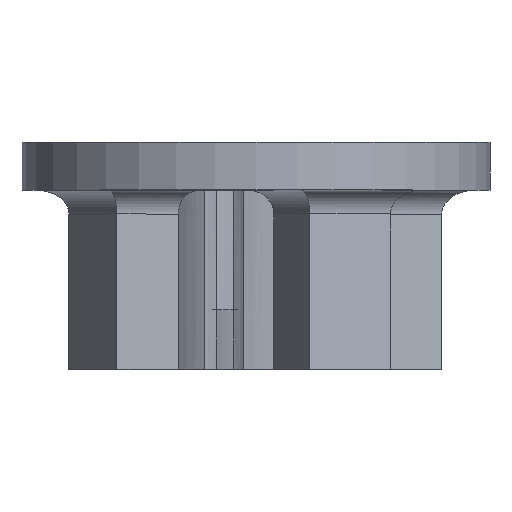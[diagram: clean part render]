
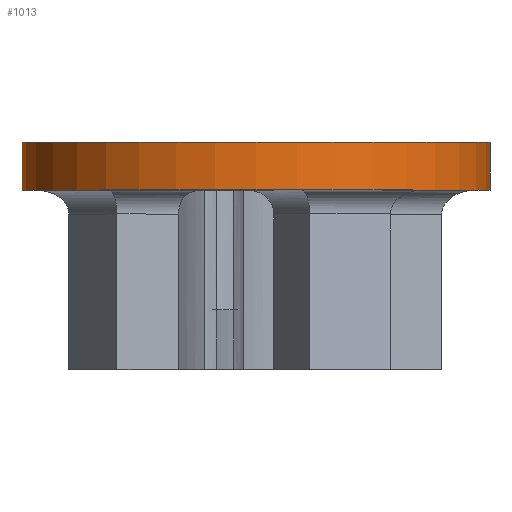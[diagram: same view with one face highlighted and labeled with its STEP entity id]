
A CAD part, top view. The second image highlights one B-rep face of the part: STEP entity #1013.
In plain terms, the highlighted cylindrical face has radius 9.789 mm (diameter 19.577 mm), a full revolution.
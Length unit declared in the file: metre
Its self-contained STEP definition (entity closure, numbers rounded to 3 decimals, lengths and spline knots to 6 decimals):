
#61=CIRCLE('',#1102,0.009789);
#69=CIRCLE('',#1115,0.009789);
#182=ORIENTED_EDGE('',*,*,#460,.T.);
#183=ORIENTED_EDGE('',*,*,#480,.T.);
#460=EDGE_CURVE('',#609,#609,#61,.T.);
#480=EDGE_CURVE('',#625,#625,#69,.F.);
#609=VERTEX_POINT('',#1639);
#625=VERTEX_POINT('',#1696);
#831=EDGE_LOOP('',(#182));
#832=EDGE_LOOP('',(#183));
#905=FACE_BOUND('',#831,.T.);
#906=FACE_BOUND('',#832,.T.);
#973=CYLINDRICAL_SURFACE('',#1114,0.009789);
#1013=ADVANCED_FACE('',(#905,#906),#973,.T.);
#1102=AXIS2_PLACEMENT_3D('',#1638,#1278,#1279);
#1114=AXIS2_PLACEMENT_3D('',#1694,#1310,#1311);
#1115=AXIS2_PLACEMENT_3D('',#1695,#1312,#1313);
#1278=DIRECTION('',(0.,1.,0.));
#1279=DIRECTION('',(0.,0.,1.));
#1310=DIRECTION('',(0.,-1.,0.));
#1311=DIRECTION('',(0.259,0.,-0.966));
#1312=DIRECTION('',(0.,1.,0.));
#1313=DIRECTION('',(0.,0.,1.));
#1638=CARTESIAN_POINT('',(-0.007207,0.0251,0.060666));
#1639=CARTESIAN_POINT('',(-0.007207,0.0251,0.070455));
#1694=CARTESIAN_POINT('',(-0.007207,0.0271,0.060666));
#1695=CARTESIAN_POINT('',(-0.007207,0.0271,0.060666));
#1696=CARTESIAN_POINT('',(-0.007207,0.0271,0.070455));
